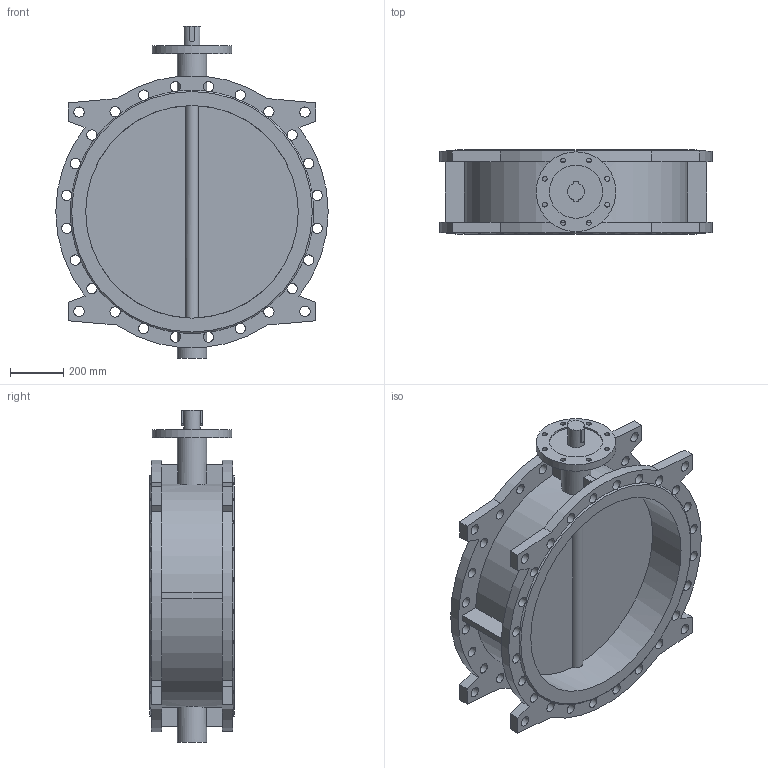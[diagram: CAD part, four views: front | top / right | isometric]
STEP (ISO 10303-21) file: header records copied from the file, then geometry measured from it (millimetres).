
FILE_DESCRIPTION(('STEP AP203'), '1');
FILE_NAME('Çàòâîð 021F.Y DN800 PN10_16 ïîä ÝÏ', '', ('UNSPECIFIED'), ('UNSPECIFIED'), 'ASCON STEP Converter 1.6', 'ASCON Math Kernel', '');
FILE_SCHEMA(('CONFIG_CONTROL_DESIGN'));
Length unit declared in the file: millimetre
Bounding box: 1025 x 318 x 1249 mm (x, y, z)
Volume: 54432156.4 mm3; surface area: 4573170.5 mm2
Topology: 1 solids, 1 shells, 152 faces, 567 edges, 378 vertices
Faces by surface type: cylinder 87, plane 63, cone 2
Full cylindrical faces by diameter (mm): 18 x8, 39 x56, 63.4 x1, 110 x2, 200 x1, 300 x1, 800 x2
Entity records: 12224 total; most frequent: CARTESIAN_POINT 6222, ORIENTED_EDGE 988, DIRECTION 918, EDGE_CURVE 494, AXIS2_PLACEMENT_3D 380, VERTEX_POINT 378, EDGE_LOOP 314, CIRCLE 227
